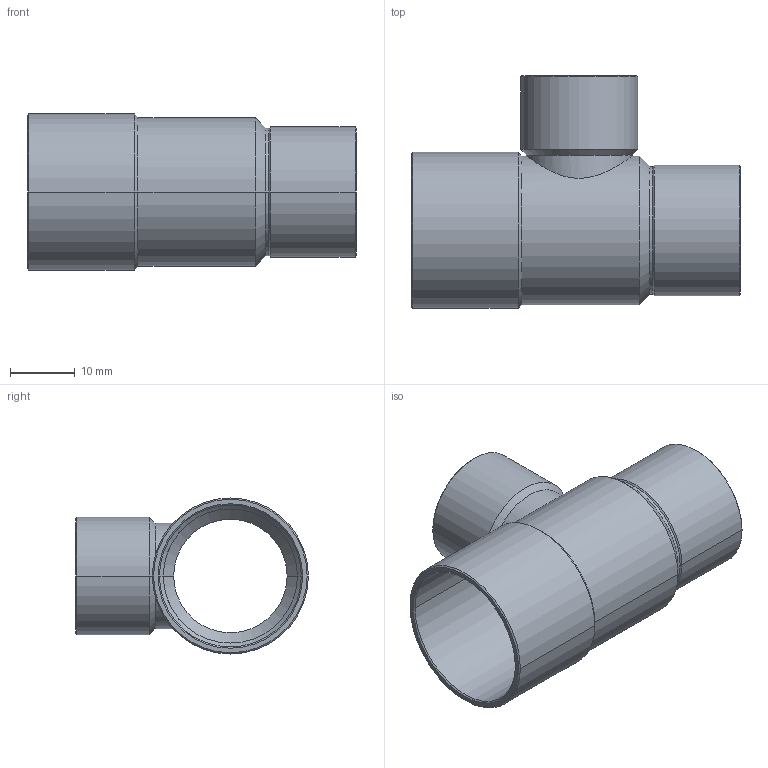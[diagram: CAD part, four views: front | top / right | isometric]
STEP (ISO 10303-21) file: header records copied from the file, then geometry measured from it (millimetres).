
FILE_DESCRIPTION((''),'2;1');
FILE_NAME('P:\Bouwmaten\z-maattekeningen 3D\5000\5130\5130221618.stp','2005-10-26T11:53:43',('Kris'),(''),'Autodesk Inventor 8','Autodesk Inventor 8','');
FILE_SCHEMA(('AUTOMOTIVE_DESIGN { 1 0 10303 214 1 1 1 1 }'));
Length unit declared in the file: millimetre
Products named in the file (1): 5130221618
Bounding box: 51 x 36.1 x 24.2 mm (x, y, z)
Volume: 4405.3 mm3; surface area: 8339.9 mm2
Topology: 1 solids, 1 shells, 55 faces, 116 edges, 62 vertices
Faces by surface type: cone 28, cylinder 24, plane 3
Entity records: 1527 total; most frequent: CARTESIAN_POINT 304, DIRECTION 278, ORIENTED_EDGE 232, EDGE_CURVE 116, AXIS2_PLACEMENT_3D 112, VERTEX_POINT 62, EDGE_LOOP 58, CIRCLE 56
